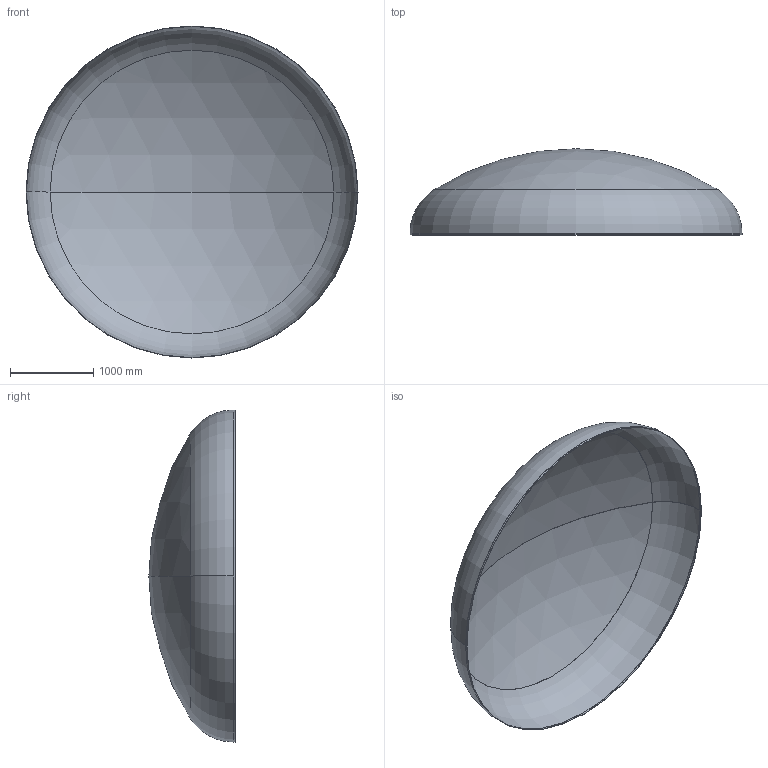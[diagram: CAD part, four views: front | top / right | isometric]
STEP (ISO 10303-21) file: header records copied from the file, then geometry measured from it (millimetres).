
FILE_DESCRIPTION (( 'STEP AP203' ), '1' );
FILE_NAME ('DIN 28013 Korbbogenform_-_Boden DIN 28013 - 4000 x 20 - I - s=4.step', '2016-07-01T21:56:06', ( '' ), ( '' ), 'SwSTEP 2.0', 'SolidWorks 2013', '' );
FILE_SCHEMA (( 'CONFIG_CONTROL_DESIGN' ));
Length unit declared in the file: millimetre
Products named in the file (1): DIN 28013 Korbbogenform_-_Boden DIN 28013 - 4000 x 20 - I - s=4
Bounding box: 4000 x 1038.81 x 4000 mm (x, y, z)
Volume: 70515467.2 mm3; surface area: 35307967.6 mm2
Topology: 1 solids, 1 shells, 13 faces, 24 edges, 14 vertices
Faces by surface type: torus 4, cylinder 4, sphere 4, plane 1
Entity records: 407 total; most frequent: DIRECTION 72, CARTESIAN_POINT 52, ORIENTED_EDGE 48, AXIS2_PLACEMENT_3D 34, EDGE_CURVE 24, CIRCLE 20, EDGE_LOOP 14, VERTEX_POINT 14
